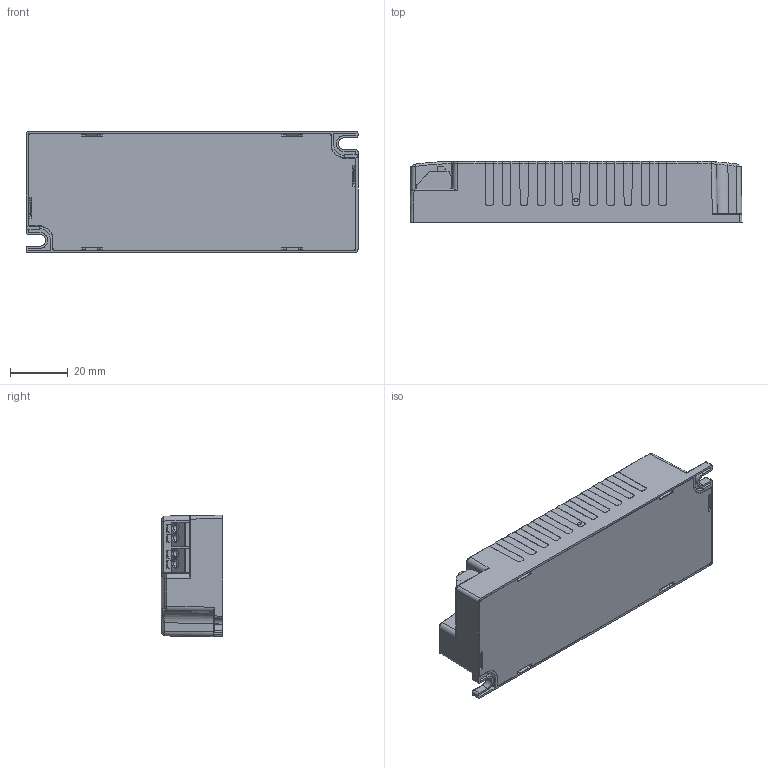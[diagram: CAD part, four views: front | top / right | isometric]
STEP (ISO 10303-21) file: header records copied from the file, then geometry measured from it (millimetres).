
FILE_DESCRIPTION(/* description */ ('','CAx-IF Rec.Pracs.---Representation and Presentation of Product Manufacturing Information (PMI)---3.8---2014-02-18'),/* implementation_level */ '2;1');
FILE_NAME(/* name */ 'C:\Data\Vault\LE-TPD\9290 028 80400_Xitanium 12W 0.08-0.5A 25V SR 230V\9290-028-80406 sh-010 2021-05-26.stp',/* time_stamp */ '2021-05-26T16:50:43+02:00',/* author */ ('nly19266'),/* organization */ (''),/* preprocessor_version */ 'ST-DEVELOPER v16.5',/* originating_system */ 'Autodesk Inventor 2017',/* authorisation */ '');
FILE_SCHEMA (('AP242_MANAGED_MODEL_BASED_3D_ENGINEERING_MIM_LF { 1 0 10303 442 1 1 4 }'));
Length unit declared in the file: millimetre
Products named in the file (1): 9290-028-80406 sh-010
Bounding box: 115 x 21.21 x 42.2 mm (x, y, z)
Volume: 94736.4 mm3; surface area: 19958.4 mm2
Topology: 1 solids, 9 shells, 1071 faces, 2988 edges, 1932 vertices
Faces by surface type: plane 633, cylinder 316, bspline 102, cone 12, sphere 6, torus 2
Full cylindrical faces by diameter (mm): 1 x6
Entity records: 38469 total; most frequent: CARTESIAN_POINT 10035, ORIENTED_EDGE 5924, DIRECTION 5469, EDGE_CURVE 2962, LINE 2079, VECTOR 2079, VERTEX_POINT 1926, AXIS2_PLACEMENT_3D 1695
